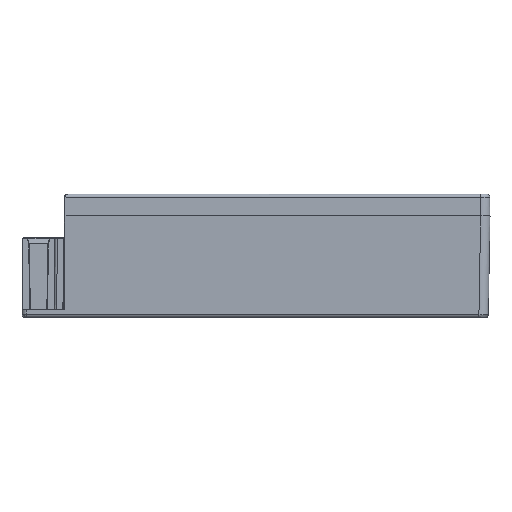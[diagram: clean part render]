
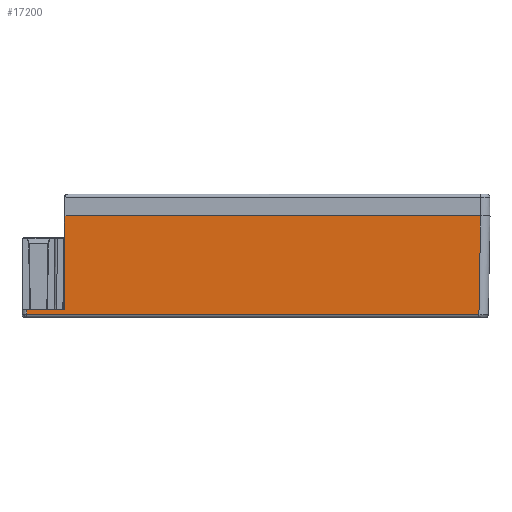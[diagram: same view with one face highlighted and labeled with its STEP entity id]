
A CAD part, top view. The second image highlights one B-rep face of the part: STEP entity #17200.
In plain terms, the highlighted planar face has unit normal (0, -0.018, 1).
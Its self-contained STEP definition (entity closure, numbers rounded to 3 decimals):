
#1815 = LINE ( 'NONE', #20556, #23679 ) ;
#1965 = CARTESIAN_POINT ( 'NONE',  ( 13.762, 32.5, 44.913 ) ) ;
#3516 = LINE ( 'NONE', #35294, #13125 ) ;
#4846 = VERTEX_POINT ( 'NONE', #19222 ) ;
#6174 = CARTESIAN_POINT ( 'NONE',  ( 146.913, 32.5, 44.913 ) ) ;
#7180 = DIRECTION ( 'NONE',  ( 1., 0., 0. ) ) ;
#7359 = VERTEX_POINT ( 'NONE', #22757 ) ;
#7851 = CARTESIAN_POINT ( 'NONE',  ( 146.96, 35.168, 44.959 ) ) ;
#9904 = ORIENTED_EDGE ( 'NONE', *, *, #19351, .T. ) ;
#11328 = AXIS2_PLACEMENT_3D ( 'NONE', #44115, #19479, #48263 ) ;
#12003 = DIRECTION ( 'NONE',  ( 0.017, 1., 0.017 ) ) ;
#13125 = VECTOR ( 'NONE', #22395, 1000. ) ;
#16076 = VERTEX_POINT ( 'NONE', #36147 ) ;
#16291 = VERTEX_POINT ( 'NONE', #21369 ) ;
#17200 = ADVANCED_FACE ( 'NONE', ( #18842 ), #43752, .T. ) ;
#17320 = LINE ( 'NONE', #1965, #48892 ) ;
#17883 = CARTESIAN_POINT ( 'NONE',  ( 13.805, 37.496, 45. ) ) ;
#18842 = FACE_OUTER_BOUND ( 'NONE', #41161, .T. ) ;
#19222 = CARTESIAN_POINT ( 'NONE',  ( 1.487, 0.983, 44.363 ) ) ;
#19351 = EDGE_CURVE ( 'NONE', #16291, #4846, #1815, .T. ) ;
#19479 = DIRECTION ( 'NONE',  ( 0., -0.017, 1. ) ) ;
#20556 = CARTESIAN_POINT ( 'NONE',  ( 1.807, 37.6, 45.002 ) ) ;
#20739 = VERTEX_POINT ( 'NONE', #6174 ) ;
#21369 = CARTESIAN_POINT ( 'NONE',  ( 1.5, 2.5, 44.389 ) ) ;
#21566 = LINE ( 'NONE', #17883, #42135 ) ;
#22395 = DIRECTION ( 'NONE',  ( 1., 0., 0. ) ) ;
#22757 = CARTESIAN_POINT ( 'NONE',  ( 13.5, 2.5, 44.389 ) ) ;
#22975 = LINE ( 'NONE', #43999, #42242 ) ;
#23185 = ORIENTED_EDGE ( 'NONE', *, *, #24109, .T. ) ;
#23679 = VECTOR ( 'NONE', #49368, 1000. ) ;
#24109 = EDGE_CURVE ( 'NONE', #16076, #7359, #21566, .T. ) ;
#26138 = DIRECTION ( 'NONE',  ( -0.009, -1., -0.017 ) ) ;
#26389 = ORIENTED_EDGE ( 'NONE', *, *, #43792, .F. ) ;
#26616 = LINE ( 'NONE', #7851, #47235 ) ;
#27402 = ORIENTED_EDGE ( 'NONE', *, *, #50374, .F. ) ;
#29167 = ORIENTED_EDGE ( 'NONE', *, *, #51499, .T. ) ;
#33487 = ORIENTED_EDGE ( 'NONE', *, *, #35010, .T. ) ;
#34790 = DIRECTION ( 'NONE',  ( 1., 0., 0. ) ) ;
#35010 = EDGE_CURVE ( 'NONE', #43021, #20739, #26616, .T. ) ;
#35294 = CARTESIAN_POINT ( 'NONE',  ( 13.3, 2.5, 44.389 ) ) ;
#36147 = CARTESIAN_POINT ( 'NONE',  ( 13.762, 32.5, 44.913 ) ) ;
#41161 = EDGE_LOOP ( 'NONE', ( #9904, #29167, #33487, #26389, #23185, #27402 ) ) ;
#42135 = VECTOR ( 'NONE', #26138, 1000. ) ;
#42242 = VECTOR ( 'NONE', #7180, 1000. ) ;
#43021 = VERTEX_POINT ( 'NONE', #52894 ) ;
#43752 = PLANE ( 'NONE',  #11328 ) ;
#43792 = EDGE_CURVE ( 'NONE', #16076, #20739, #17320, .T. ) ;
#43999 = CARTESIAN_POINT ( 'NONE',  ( 13.3, 0.983, 44.363 ) ) ;
#44115 = CARTESIAN_POINT ( 'NONE',  ( 13.3, 37.5, 45. ) ) ;
#47235 = VECTOR ( 'NONE', #12003, 1000. ) ;
#48263 = DIRECTION ( 'NONE',  ( 0., -1., -0.017 ) ) ;
#48892 = VECTOR ( 'NONE', #34790, 1000. ) ;
#49368 = DIRECTION ( 'NONE',  ( -0.009, -1., -0.017 ) ) ;
#50374 = EDGE_CURVE ( 'NONE', #16291, #7359, #3516, .T. ) ;
#51499 = EDGE_CURVE ( 'NONE', #4846, #43021, #22975, .T. ) ;
#52894 = CARTESIAN_POINT ( 'NONE',  ( 146.363, 0.983, 44.363 ) ) ;
